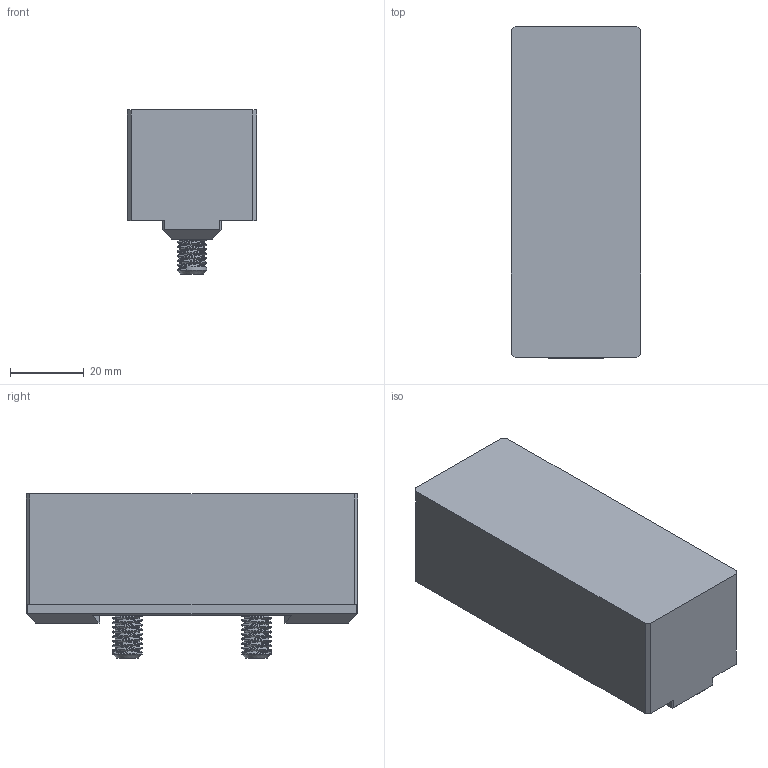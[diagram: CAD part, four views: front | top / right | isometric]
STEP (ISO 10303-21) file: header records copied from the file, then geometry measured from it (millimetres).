
FILE_DESCRIPTION(/* description */ (''),/* implementation_level */ '2;1');
FILE_NAME(/* name */ '',/* time_stamp */ '2024-02-23T15:29:10+08:00',/* author */ (''),/* organization */ (''),/* preprocessor_version */ 'ST-DEVELOPER v11',/* originating_system */ 'SIEMENS PLM Software NX 7.0',/* authorisation */ '');
FILE_SCHEMA (('CONFIG_CONTROL_DESIGN'));
Length unit declared in the file: millimetre
Products named in the file (1): AdmiDC7E54cg
Bounding box: 35 x 90 x 44.5 mm (x, y, z)
Volume: 96795.9 mm3; surface area: 18092.9 mm2
Topology: 3 solids, 3 shells, 105 faces, 276 edges, 182 vertices
Faces by surface type: plane 65, cylinder 30, torus 4, bspline 4, cone 2
Full cylindrical faces by diameter (mm): 8 x18, 13 x2
Entity records: 7416 total; most frequent: CARTESIAN_POINT 5290, ORIENTED_EDGE 420, DIRECTION 394, EDGE_CURVE 210, LINE 158, VECTOR 158, VERTEX_POINT 144, AXIS2_PLACEMENT_3D 118
